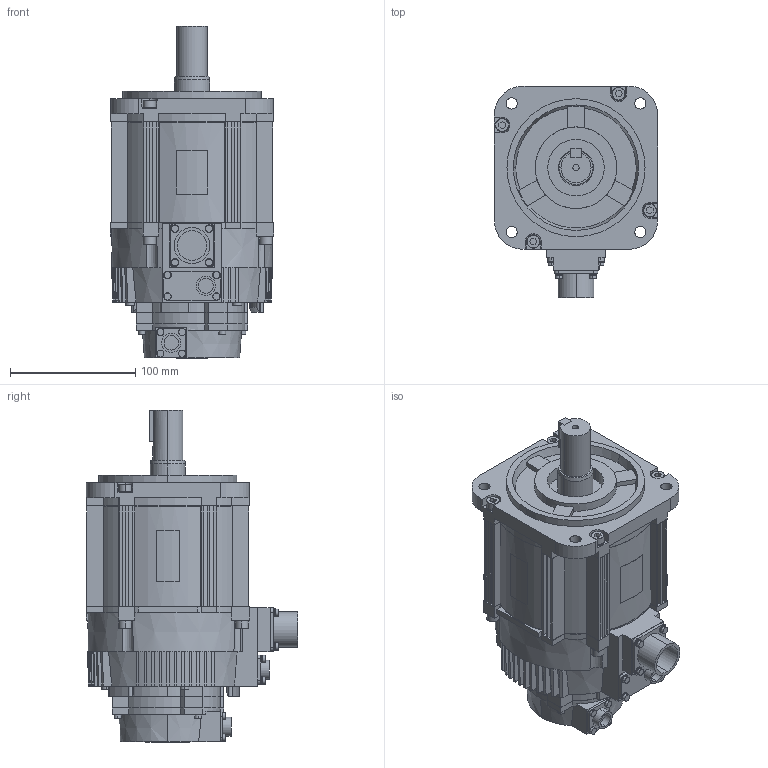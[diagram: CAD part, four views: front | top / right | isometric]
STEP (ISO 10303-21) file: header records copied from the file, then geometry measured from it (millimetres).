
FILE_DESCRIPTION (( 'STEP AP203' ), '1' );
FILE_NAME ('sgmgv_20__a6c.STEP', '2009-02-06T06:16:45', ( 'T' ), ( 'T' ), 'SwSTEP 2.0', 'SolidWorks 2006052', '' );
FILE_SCHEMA (( 'CONFIG_CONTROL_DESIGN' ));
Length unit declared in the file: millimetre
Products named in the file (3): sgmgv_20__a6c; sgmgv_20__a6c_base; sgmgv_20__a6c_key
Assembly tree (2 placements, depth 2):
  sgmgv_20__a6c
    sgmgv_20__a6c_key
    sgmgv_20__a6c_base
Bounding box: 130 x 168.49 x 264.6 mm (x, y, z)
Volume: 2512410.7 mm3; surface area: 181425.9 mm2
Topology: 2 solids, 2 shells, 942 faces, 2404 edges, 1559 vertices
Faces by surface type: plane 589, cylinder 253, cone 100
Entity records: 29394 total; most frequent: CARTESIAN_POINT 5879, DIRECTION 4901, ORIENTED_EDGE 4808, EDGE_CURVE 2404, AXIS2_PLACEMENT_3D 1729, VERTEX_POINT 1559, VECTOR 1443, LINE 1443
